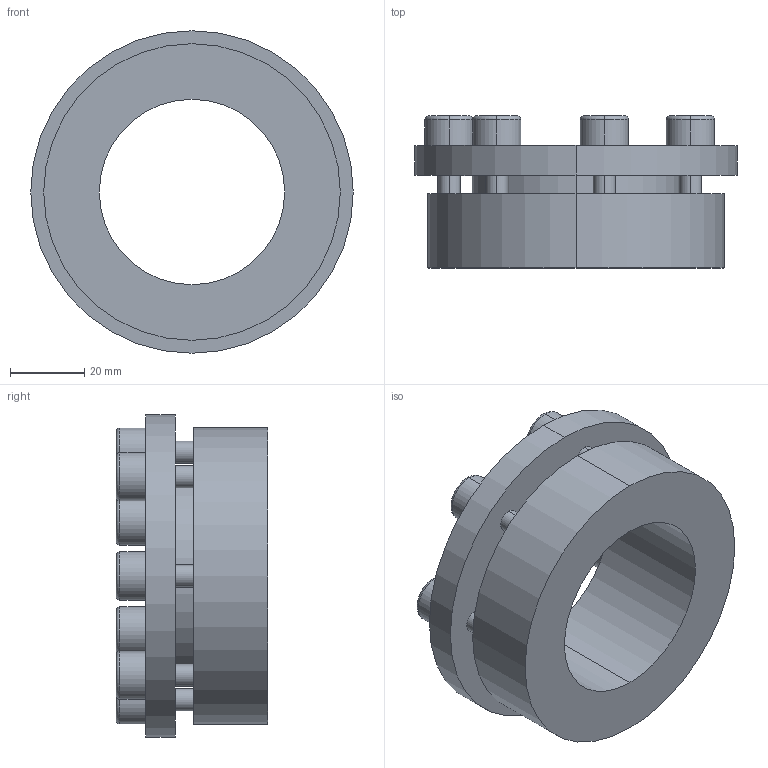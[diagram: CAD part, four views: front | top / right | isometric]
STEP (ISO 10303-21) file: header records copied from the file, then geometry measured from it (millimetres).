
FILE_DESCRIPTION (( 'STEP AP203' ), '1' );
FILE_NAME ('PL-H4 50-80.STEP', '2021-10-23T01:21:40', ( '' ), ( '' ), 'SwSTEP 2.0', 'SolidWorks 2018', '' );
FILE_SCHEMA (( 'CONFIG_CONTROL_DESIGN' ));
Length unit declared in the file: millimetre
Products named in the file (1): PL-H4 50-80
Bounding box: 87 x 41 x 87 mm (x, y, z)
Volume: 103098.5 mm3; surface area: 29372.9 mm2
Topology: 1 solids, 1 shells, 110 faces, 262 edges, 170 vertices
Faces by surface type: plane 60, cylinder 36, torus 14
Entity records: 3303 total; most frequent: DIRECTION 584, CARTESIAN_POINT 543, ORIENTED_EDGE 524, EDGE_CURVE 262, AXIS2_PLACEMENT_3D 211, VERTEX_POINT 170, VECTOR 162, LINE 162
